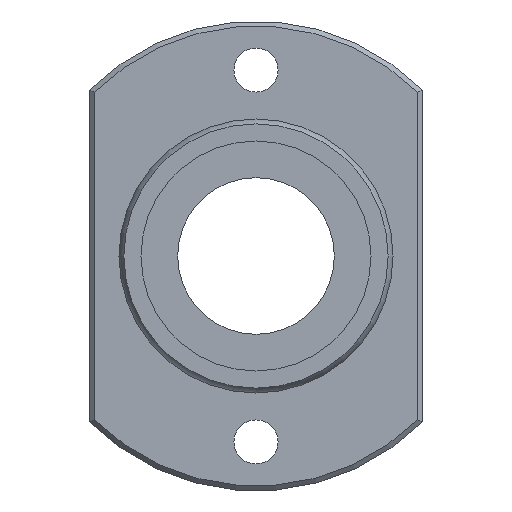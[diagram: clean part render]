
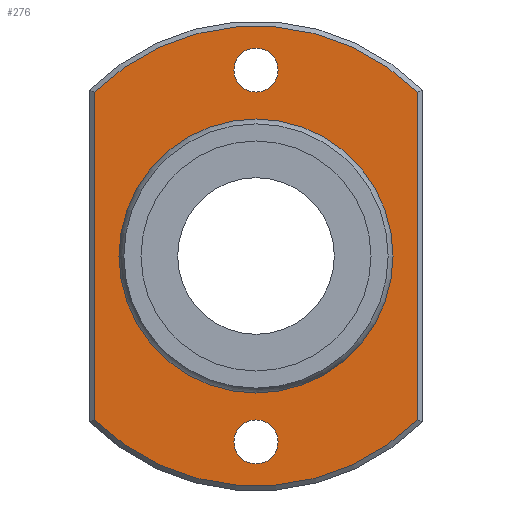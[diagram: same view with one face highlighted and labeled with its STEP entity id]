
A CAD part, left-side view. The second image highlights one B-rep face of the part: STEP entity #276.
In plain terms, the highlighted planar face has unit normal (-1, 0, 0).
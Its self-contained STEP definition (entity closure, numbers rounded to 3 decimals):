
#59=CARTESIAN_POINT('',(6.,16.5,-16.733));
#60=VERTEX_POINT('',#59);
#68=CARTESIAN_POINT('',(6.,16.5,16.733));
#69=VERTEX_POINT('',#68);
#70=CARTESIAN_POINT('',(6.,16.5,-16.733));
#71=DIRECTION('',(0.0,0.0,1.0));
#72=VECTOR('',#71,33.466);
#73=LINE('',#70,#72);
#74=EDGE_CURVE('',#60,#69,#73,.T.);
#101=CARTESIAN_POINT('',(6.,-16.5,16.733));
#102=VERTEX_POINT('',#101);
#103=CARTESIAN_POINT('',(6.,0.0,0.0));
#104=DIRECTION('',(1.0,0.0,0.0));
#105=DIRECTION('',(0.0,0.0,1.0));
#106=AXIS2_PLACEMENT_3D('',#103,#104,#105);
#107=CIRCLE('',#106,23.5);
#108=EDGE_CURVE('',#69,#102,#107,.T.);
#134=CARTESIAN_POINT('',(6.,-16.5,-16.733));
#135=VERTEX_POINT('',#134);
#136=CARTESIAN_POINT('',(6.,-16.5,16.733));
#137=DIRECTION('',(0.0,0.0,-1.0));
#138=VECTOR('',#137,33.466);
#139=LINE('',#136,#138);
#140=EDGE_CURVE('',#102,#135,#139,.T.);
#165=CARTESIAN_POINT('',(6.,0.0,0.0));
#166=DIRECTION('',(1.0,0.0,0.0));
#167=DIRECTION('',(0.0,0.0,-1.0));
#168=AXIS2_PLACEMENT_3D('',#165,#166,#167);
#169=CIRCLE('',#168,23.5);
#170=EDGE_CURVE('',#135,#60,#169,.T.);
#232=CARTESIAN_POINT('',(6.,0.0,18.887));
#233=DIRECTION('',(-1.0,0.0,0.0));
#234=DIRECTION('',(0.0,0.0,1.0));
#235=AXIS2_PLACEMENT_3D('',#232,#233,#234);
#236=PLANE('',#235);
#237=ORIENTED_EDGE('',*,*,#74,.F.);
#238=ORIENTED_EDGE('',*,*,#170,.F.);
#239=ORIENTED_EDGE('',*,*,#140,.F.);
#240=ORIENTED_EDGE('',*,*,#108,.F.);
#241=EDGE_LOOP('',(#237,#238,#239,#240));
#242=FACE_OUTER_BOUND('',#241,.T.);
#243=CARTESIAN_POINT('',(6.,0.0,13.773));
#244=VERTEX_POINT('',#243);
#245=CARTESIAN_POINT('',(6.,0.0,0.0));
#246=DIRECTION('',(-1.0,0.0,0.0));
#247=DIRECTION('',(0.0,0.0,1.0));
#248=AXIS2_PLACEMENT_3D('',#245,#246,#247);
#249=CIRCLE('',#248,13.773);
#250=EDGE_CURVE('',#244,#244,#249,.T.);
#251=ORIENTED_EDGE('',*,*,#250,.F.);
#252=EDGE_LOOP('',(#251));
#253=FACE_BOUND('',#252,.T.);
#254=CARTESIAN_POINT('',(6.,-2.25,-19.0));
#255=VERTEX_POINT('',#254);
#256=CARTESIAN_POINT('',(6.,0.,-19.0));
#257=DIRECTION('',(1.0,0.0,0.0));
#258=DIRECTION('',(0.0,1.0,0.0));
#259=AXIS2_PLACEMENT_3D('',#256,#257,#258);
#260=CIRCLE('',#259,2.25);
#261=EDGE_CURVE('',#255,#255,#260,.T.);
#262=ORIENTED_EDGE('',*,*,#261,.T.);
#263=EDGE_LOOP('',(#262));
#264=FACE_BOUND('',#263,.T.);
#265=CARTESIAN_POINT('',(6.,-2.25,19.0));
#266=VERTEX_POINT('',#265);
#267=CARTESIAN_POINT('',(6.,0.,19.0));
#268=DIRECTION('',(1.0,0.0,0.0));
#269=DIRECTION('',(0.0,1.0,0.0));
#270=AXIS2_PLACEMENT_3D('',#267,#268,#269);
#271=CIRCLE('',#270,2.25);
#272=EDGE_CURVE('',#266,#266,#271,.T.);
#273=ORIENTED_EDGE('',*,*,#272,.T.);
#274=EDGE_LOOP('',(#273));
#275=FACE_BOUND('',#274,.T.);
#276=ADVANCED_FACE('',(#242,#253,#264,#275),#236,.T.);
